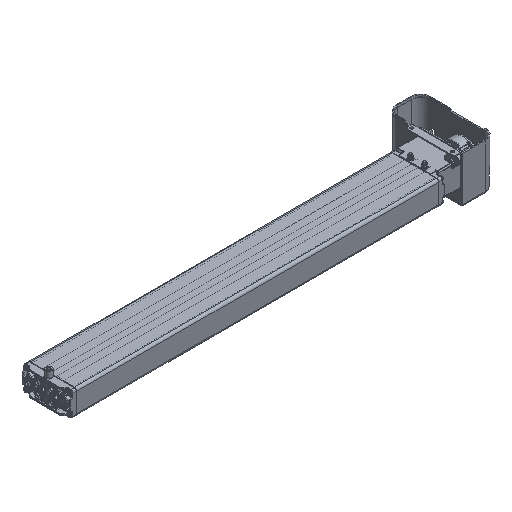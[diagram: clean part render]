
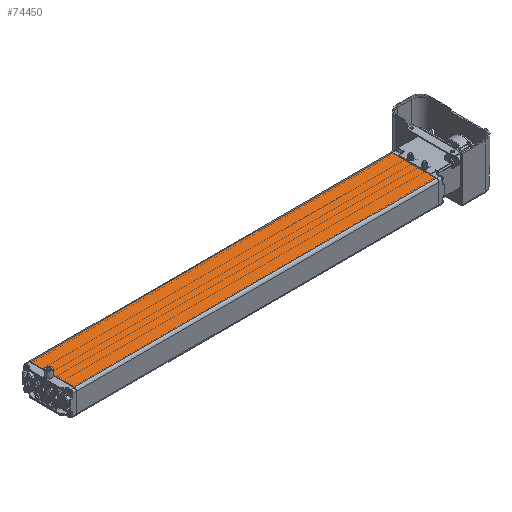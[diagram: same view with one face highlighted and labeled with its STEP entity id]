
A CAD part, isometric view. The second image highlights one B-rep face of the part: STEP entity #74450.
In plain terms, the highlighted planar face has unit normal (0, 0, 1).
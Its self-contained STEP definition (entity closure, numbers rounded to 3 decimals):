
#7083=LINE('',#125713,#10106);
#7084=LINE('',#125716,#10107);
#7085=LINE('',#125718,#10108);
#7086=LINE('',#125720,#10109);
#10106=VECTOR('',#86895,1000.);
#10107=VECTOR('',#86896,1000.);
#10108=VECTOR('',#86897,1000.);
#10109=VECTOR('',#86898,1000.);
#17820=ORIENTED_EDGE('',*,*,#34873,.T.);
#17821=ORIENTED_EDGE('',*,*,#34874,.T.);
#17822=ORIENTED_EDGE('',*,*,#34875,.T.);
#17823=ORIENTED_EDGE('',*,*,#34876,.T.);
#34873=EDGE_CURVE('',#43628,#43629,#7083,.F.);
#34874=EDGE_CURVE('',#43629,#43630,#7084,.T.);
#34875=EDGE_CURVE('',#43630,#43631,#7085,.T.);
#34876=EDGE_CURVE('',#43631,#43628,#7086,.F.);
#43628=VERTEX_POINT('',#125714);
#43629=VERTEX_POINT('',#125715);
#43630=VERTEX_POINT('',#125717);
#43631=VERTEX_POINT('',#125719);
#52046=EDGE_LOOP('',(#17820,#17821,#17822,#17823));
#56643=FACE_BOUND('',#52046,.T.);
#60389=PLANE('',#78952);
#74450=ADVANCED_FACE('',(#56643),#60389,.T.);
#78952=AXIS2_PLACEMENT_3D('',#125712,#86893,#86894);
#86893=DIRECTION('',(0.,0.,1.));
#86894=DIRECTION('',(1.,0.,0.));
#86895=DIRECTION('',(0.,-1.,0.));
#86896=DIRECTION('',(-1.,0.,0.));
#86897=DIRECTION('',(0.,-1.,0.));
#86898=DIRECTION('',(-1.,0.,0.));
#125712=CARTESIAN_POINT('',(60.,893.5,30.));
#125713=CARTESIAN_POINT('',(54.,893.5,30.));
#125714=CARTESIAN_POINT('',(54.,0.5,30.));
#125715=CARTESIAN_POINT('',(54.,893.,30.));
#125716=CARTESIAN_POINT('',(60.,893.,30.));
#125717=CARTESIAN_POINT('',(-54.,893.,30.));
#125718=CARTESIAN_POINT('',(-54.,893.5,30.));
#125719=CARTESIAN_POINT('',(-54.,0.5,30.));
#125720=CARTESIAN_POINT('',(54.,0.5,30.));
